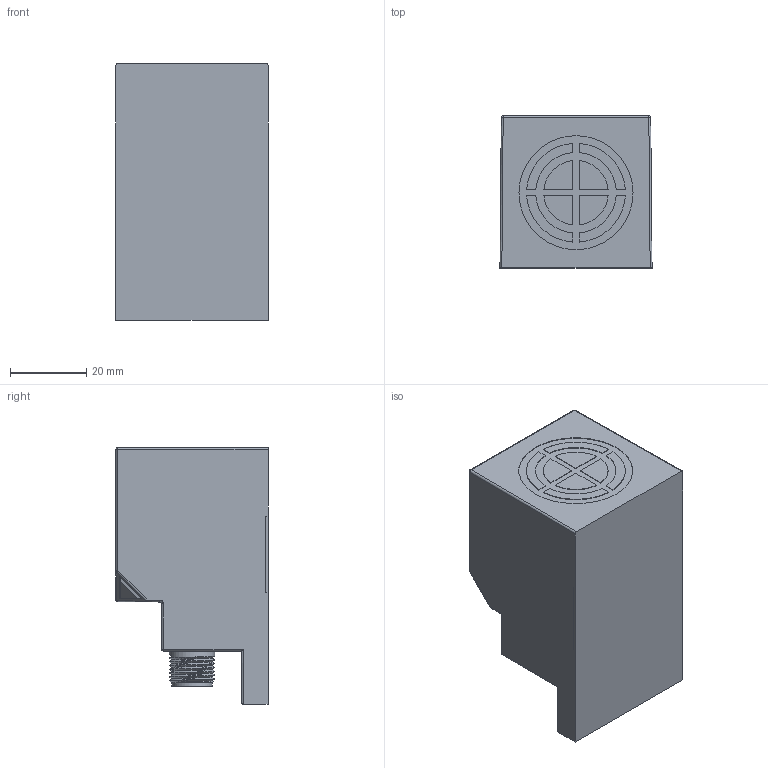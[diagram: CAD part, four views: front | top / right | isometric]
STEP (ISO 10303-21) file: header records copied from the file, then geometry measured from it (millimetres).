
FILE_DESCRIPTION (( 'STEP AP214' ), '1' );
FILE_NAME ('ST40.STEP', '2025-09-04T05:11:13', ( 'Windows User' ), ( 'P R C' ), 'SwSTEP 2.0', 'SolidWorks 2023', '' );
FILE_SCHEMA (( 'AUTOMOTIVE_DESIGN' ));
Length unit declared in the file: millimetre
Products named in the file (7): ______; SS40 housing; POT35.8X11____; M12  ____; ST40(2); M12 Connector; ST40
Assembly tree (6 placements, depth 3):
  ST40
    ST40(2)
      SS40 housing
      POT35.8X11____
      ______
      M12  ____
      M12 Connector
Bounding box: 40 x 40 x 67.5 mm (x, y, z)
Volume: 84867.6 mm3; surface area: 32876.5 mm2
Topology: 5 solids, 7 shells, 684 faces, 1730 edges, 1092 vertices
Faces by surface type: plane 304, cylinder 240, bspline 62, cone 31, torus 26, sphere 21
Entity records: 25107 total; most frequent: CARTESIAN_POINT 9015, ORIENTED_EDGE 3430, DIRECTION 3120, EDGE_CURVE 1715, VERTEX_POINT 1088, AXIS2_PLACEMENT_3D 1072, VECTOR 976, LINE 976
